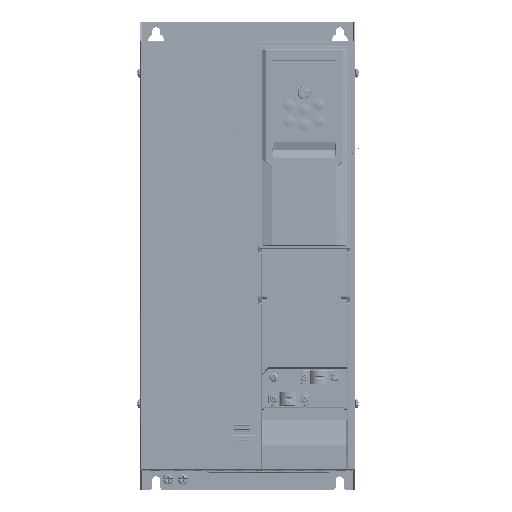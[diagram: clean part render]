
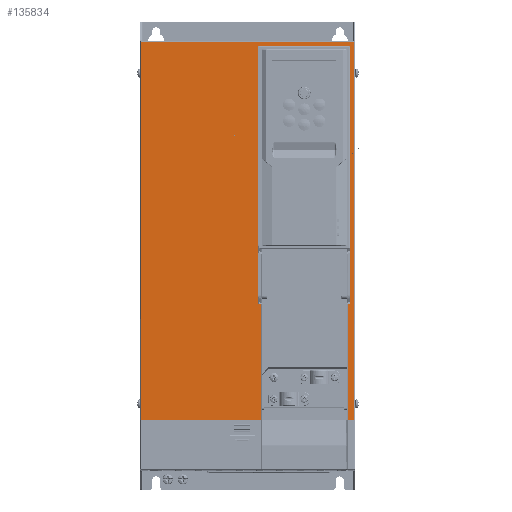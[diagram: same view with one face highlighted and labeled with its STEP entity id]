
A CAD part, top view. The second image highlights one B-rep face of the part: STEP entity #135834.
In plain terms, the highlighted planar face has unit normal (0, 0, 1).
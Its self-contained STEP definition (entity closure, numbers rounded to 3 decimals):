
#25948=DIRECTION('',(-1.,0.,0.));
#25949=VECTOR('',#25948,168.4);
#25950=CARTESIAN_POINT('',(39.7,3.7,0.));
#25951=LINE('',#25950,#25949);
#25955=DIRECTION('',(0.,1.,0.));
#25956=VECTOR('',#25955,299.155);
#25957=CARTESIAN_POINT('',(39.7,-295.455,0.));
#25958=LINE('',#25957,#25956);
#25962=DIRECTION('',(1.,0.,0.));
#25963=VECTOR('',#25962,5.42);
#25964=CARTESIAN_POINT('',(34.28,-295.455,0.));
#25965=LINE('',#25964,#25963);
#25969=DIRECTION('',(0.,-1.,0.));
#25970=VECTOR('',#25969,91.355);
#25971=CARTESIAN_POINT('',(34.28,-204.101,0.));
#25972=LINE('',#25971,#25970);
#25976=DIRECTION('',(-1.,0.,0.));
#25977=VECTOR('',#25976,72.4);
#25978=CARTESIAN_POINT('',(36.2,0.2,0.));
#25979=LINE('',#25978,#25977);
#25983=DIRECTION('',(0.,1.,0.));
#25984=VECTOR('',#25983,91.355);
#25985=CARTESIAN_POINT('',(-34.28,-295.455,0.));
#25986=LINE('',#25985,#25984);
#25990=DIRECTION('',(0.,-1.,0.));
#25991=VECTOR('',#25990,299.155);
#25992=CARTESIAN_POINT('',(-128.7,3.7,0.));
#25993=LINE('',#25992,#25991);
#33839=DIRECTION('',(0.,-1.,0.));
#33840=VECTOR('',#33839,204.301);
#33841=CARTESIAN_POINT('',(36.2,0.2,0.));
#33842=LINE('',#33841,#33840);
#33897=DIRECTION('',(-1.,0.,0.));
#33898=VECTOR('',#33897,1.92);
#33899=CARTESIAN_POINT('',(36.2,-204.101,0.));
#33900=LINE('',#33899,#33898);
#33929=DIRECTION('',(-1.,0.,0.));
#33930=VECTOR('',#33929,1.92);
#33931=CARTESIAN_POINT('',(-34.28,-204.101,0.));
#33932=LINE('',#33931,#33930);
#33984=DIRECTION('',(1.,0.,0.));
#33985=VECTOR('',#33984,94.42);
#33986=CARTESIAN_POINT('',(-128.7,-295.455,0.));
#33987=LINE('',#33986,#33985);
#57517=DIRECTION('',(0.,1.,0.));
#57518=VECTOR('',#57517,204.301);
#57519=CARTESIAN_POINT('',(-36.2,-204.101,0.));
#57520=LINE('',#57519,#57518);
#106421=CARTESIAN_POINT('',(36.2,0.2,0.));
#106422=CARTESIAN_POINT('',(-36.2,0.2,0.));
#106423=VERTEX_POINT('',#106421);
#106424=VERTEX_POINT('',#106422);
#109832=CARTESIAN_POINT('',(36.2,-204.101,0.));
#109833=VERTEX_POINT('',#109832);
#109860=CARTESIAN_POINT('',(-36.2,-204.101,0.));
#109861=VERTEX_POINT('',#109860);
#109878=CARTESIAN_POINT('',(34.28,-204.101,0.));
#109879=CARTESIAN_POINT('',(34.28,-295.455,0.));
#109880=VERTEX_POINT('',#109878);
#109881=VERTEX_POINT('',#109879);
#109882=CARTESIAN_POINT('',(-34.28,-295.455,0.));
#109883=CARTESIAN_POINT('',(-34.28,-204.101,0.));
#109884=VERTEX_POINT('',#109882);
#109885=VERTEX_POINT('',#109883);
#109996=CARTESIAN_POINT('',(39.7,3.7,0.));
#109997=CARTESIAN_POINT('',(-128.7,3.7,0.));
#109998=VERTEX_POINT('',#109996);
#109999=VERTEX_POINT('',#109997);
#110004=CARTESIAN_POINT('',(-128.7,-295.455,0.));
#110005=VERTEX_POINT('',#110004);
#110008=CARTESIAN_POINT('',(39.7,-295.455,0.));
#110009=VERTEX_POINT('',#110008);
#135804=CARTESIAN_POINT('',(0.,0.,0.));
#135805=DIRECTION('',(0.,0.,1.));
#135806=DIRECTION('',(1.,0.,0.));
#135807=AXIS2_PLACEMENT_3D('',#135804,#135805,#135806);
#135808=PLANE('',#135807);
#135809=ORIENTED_EDGE('',*,*,#135008,.F.);
#135811=ORIENTED_EDGE('',*,*,#135810,.F.);
#135813=ORIENTED_EDGE('',*,*,#135812,.F.);
#135815=ORIENTED_EDGE('',*,*,#135814,.F.);
#135817=ORIENTED_EDGE('',*,*,#135816,.F.);
#135819=ORIENTED_EDGE('',*,*,#135818,.F.);
#135821=ORIENTED_EDGE('',*,*,#135820,.T.);
#135823=ORIENTED_EDGE('',*,*,#135822,.F.);
#135825=ORIENTED_EDGE('',*,*,#135824,.F.);
#135827=ORIENTED_EDGE('',*,*,#135826,.F.);
#135829=ORIENTED_EDGE('',*,*,#135828,.F.);
#135831=ORIENTED_EDGE('',*,*,#135830,.F.);
#135832=EDGE_LOOP('',(#135809,#135811,#135813,#135815,#135817,#135819,#135821,
#135823,#135825,#135827,#135829,#135831));
#135833=FACE_OUTER_BOUND('',#135832,.F.);
#135834=ADVANCED_FACE('',(#135833),#135808,.T.);
#135008=EDGE_CURVE('',#109998,#109999,#25951,.T.);
#135810=EDGE_CURVE('',#110009,#109998,#25958,.T.);
#135812=EDGE_CURVE('',#109881,#110009,#25965,.T.);
#135814=EDGE_CURVE('',#109880,#109881,#25972,.T.);
#135816=EDGE_CURVE('',#109833,#109880,#33900,.T.);
#135818=EDGE_CURVE('',#106423,#109833,#33842,.T.);
#135820=EDGE_CURVE('',#106423,#106424,#25979,.T.);
#135822=EDGE_CURVE('',#109861,#106424,#57520,.T.);
#135824=EDGE_CURVE('',#109885,#109861,#33932,.T.);
#135826=EDGE_CURVE('',#109884,#109885,#25986,.T.);
#135828=EDGE_CURVE('',#110005,#109884,#33987,.T.);
#135830=EDGE_CURVE('',#109999,#110005,#25993,.T.);
